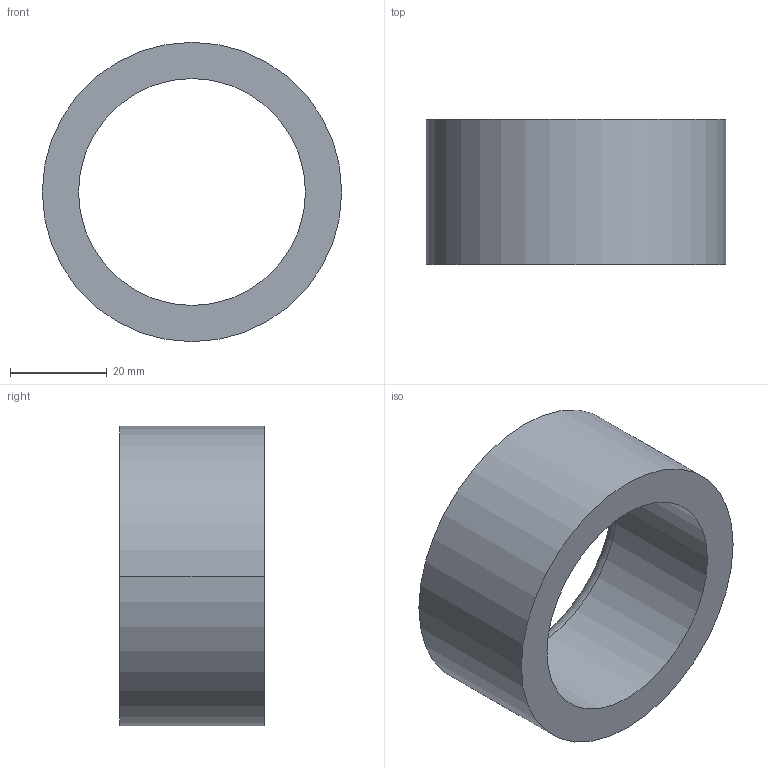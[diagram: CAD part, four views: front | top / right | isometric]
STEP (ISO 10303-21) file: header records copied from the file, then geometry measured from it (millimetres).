
FILE_DESCRIPTION (( 'STEP AP203' ), '1' );
FILE_NAME ('30800.WPP62L47.0.step', '2019-01-23T22:58:16', ( '' ), ( '' ), 'SwSTEP 2.0', 'SolidWorks 2017', '' );
FILE_SCHEMA (( 'CONFIG_CONTROL_DESIGN' ));
Length unit declared in the file: millimetre
Products named in the file (1): 30800.WPP62L47.0
Bounding box: 62 x 30 x 62 mm (x, y, z)
Volume: 38122.7 mm3; surface area: 12624.9 mm2
Topology: 1 solids, 1 shells, 8 faces, 16 edges, 10 vertices
Faces by surface type: cylinder 4, torus 2, plane 2
Entity records: 297 total; most frequent: DIRECTION 46, CARTESIAN_POINT 35, ORIENTED_EDGE 32, AXIS2_PLACEMENT_3D 21, EDGE_CURVE 16, CIRCLE 12, EDGE_LOOP 10, VERTEX_POINT 10
